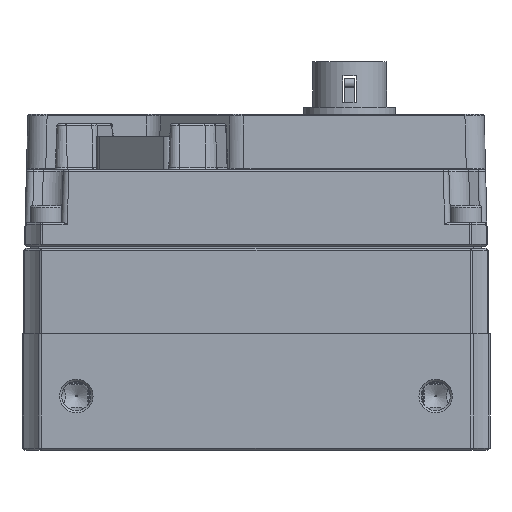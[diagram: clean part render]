
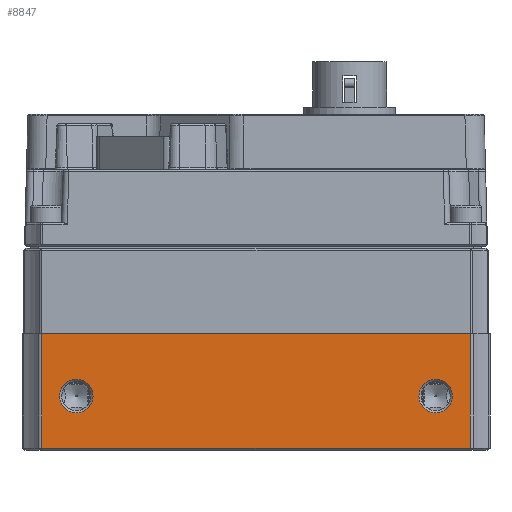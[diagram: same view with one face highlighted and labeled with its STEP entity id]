
A CAD part, front view. The second image highlights one B-rep face of the part: STEP entity #8847.
In plain terms, the highlighted planar face has unit normal (0, -1, 0).
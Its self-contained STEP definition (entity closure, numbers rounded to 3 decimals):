
#8786=CARTESIAN_POINT('',(-25.899,-31.,-6.437));
#8787=DIRECTION('',(0.0,-1.0,0.0));
#8788=DIRECTION('',(0.0,0.0,-1.0));
#8789=AXIS2_PLACEMENT_3D('',#8786,#8787,#8788);
#8790=PLANE('',#8789);
#8791=CARTESIAN_POINT('',(-25.641,-31.,7.563));
#8792=VERTEX_POINT('',#8791);
#8793=CARTESIAN_POINT('',(-25.641,-31.,-6.187));
#8794=VERTEX_POINT('',#8793);
#8795=CARTESIAN_POINT('',(-25.641,-31.,7.563));
#8796=DIRECTION('',(0.0,0.0,-1.0));
#8797=VECTOR('',#8796,13.75);
#8798=LINE('',#8795,#8797);
#8799=EDGE_CURVE('',#8792,#8794,#8798,.T.);
#8800=ORIENTED_EDGE('',*,*,#8799,.T.);
#8801=CARTESIAN_POINT('',(25.641,-31.,-6.187));
#8802=VERTEX_POINT('',#8801);
#8803=CARTESIAN_POINT('',(-25.641,-31.,-6.187));
#8804=DIRECTION('',(1.0,0.0,0.0));
#8805=VECTOR('',#8804,51.281);
#8806=LINE('',#8803,#8805);
#8807=EDGE_CURVE('',#8794,#8802,#8806,.T.);
#8808=ORIENTED_EDGE('',*,*,#8807,.T.);
#8809=CARTESIAN_POINT('',(25.641,-31.,7.563));
#8810=VERTEX_POINT('',#8809);
#8811=CARTESIAN_POINT('',(25.641,-31.,-6.187));
#8812=DIRECTION('',(0.0,0.0,1.0));
#8813=VECTOR('',#8812,13.75);
#8814=LINE('',#8811,#8813);
#8815=EDGE_CURVE('',#8802,#8810,#8814,.T.);
#8816=ORIENTED_EDGE('',*,*,#8815,.T.);
#8817=CARTESIAN_POINT('',(-25.641,-31.,7.563));
#8818=DIRECTION('',(1.0,0.0,0.0));
#8819=VECTOR('',#8818,51.281);
#8820=LINE('',#8817,#8819);
#8821=EDGE_CURVE('',#8792,#8810,#8820,.T.);
#8822=ORIENTED_EDGE('',*,*,#8821,.F.);
#8823=EDGE_LOOP('',(#8800,#8808,#8816,#8822));
#8824=FACE_OUTER_BOUND('',#8823,.T.);
#8825=CARTESIAN_POINT('',(21.5,-31.,-1.937));
#8826=VERTEX_POINT('',#8825);
#8827=CARTESIAN_POINT('',(21.5,-31.,0.063));
#8828=DIRECTION('',(0.0,1.0,0.0));
#8829=DIRECTION('',(0.0,0.0,-1.0));
#8830=AXIS2_PLACEMENT_3D('',#8827,#8828,#8829);
#8831=CIRCLE('',#8830,2.0);
#8832=EDGE_CURVE('',#8826,#8826,#8831,.T.);
#8833=ORIENTED_EDGE('',*,*,#8832,.T.);
#8834=EDGE_LOOP('',(#8833));
#8835=FACE_BOUND('',#8834,.T.);
#8836=CARTESIAN_POINT('',(-21.5,-31.,-1.937));
#8837=VERTEX_POINT('',#8836);
#8838=CARTESIAN_POINT('',(-21.5,-31.,0.063));
#8839=DIRECTION('',(0.0,1.0,0.0));
#8840=DIRECTION('',(0.0,0.0,-1.0));
#8841=AXIS2_PLACEMENT_3D('',#8838,#8839,#8840);
#8842=CIRCLE('',#8841,2.0);
#8843=EDGE_CURVE('',#8837,#8837,#8842,.T.);
#8844=ORIENTED_EDGE('',*,*,#8843,.T.);
#8845=EDGE_LOOP('',(#8844));
#8846=FACE_BOUND('',#8845,.T.);
#8847=ADVANCED_FACE('',(#8824,#8835,#8846),#8790,.T.);
